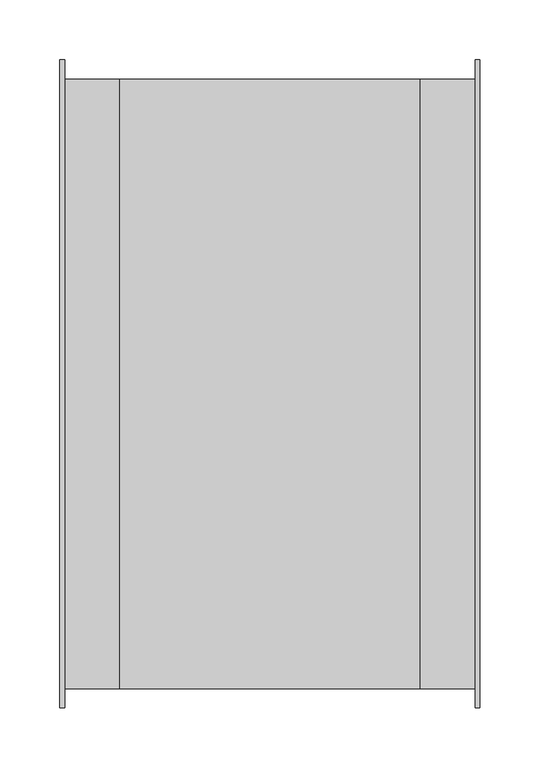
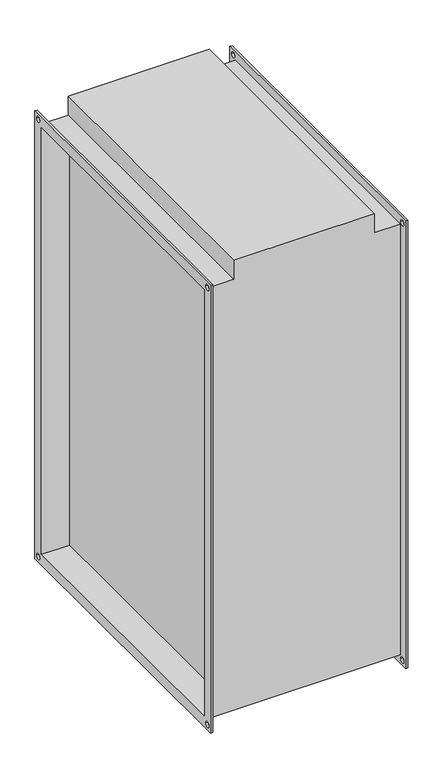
"""IFC4 building model written with IfcOpenShell, lengths in millimetres: proxy geometry."""

import ifcopenshell
import ifcopenshell.guid

model = None  # the IFC model being written
_history = None  # IfcOwnerHistory: only IFC2X3 demands one
_inside = {}  # id of a spatial element -> (the spatial element, [elements in it])
_under = {}  # id of a project, library or spatial element -> (it, [spatial elements below it])
_declared = {}  # id of a project -> (the project, [libraries it declares])
_typed = {}  # id of a type object -> (the type object, [elements of that type])
_made_of = {}  # id of a material, layer set ... -> (it, [elements and type objects made of it])


def new_model(schema):
    """Start an empty IFC model of exactly this schema.

    Asked for "IFC4X3", IfcOpenShell would pick the latest addendum, in which some entities
    have other attributes; the version numbers below select the first issue.
    IFC2X3 requires an IfcOwnerHistory on every rooted entity: one is made here for all.
    """
    global model, _history
    if schema == "IFC4X3":
        model = ifcopenshell.file(schema_version=(4, 3, 0, 0))
    else:
        model = ifcopenshell.file(schema=schema)
    _inside.clear()
    _under.clear()
    _declared.clear()
    _typed.clear()
    _made_of.clear()
    _history = None
    if model.schema == "IFC2X3":
        org = make("IfcOrganization", Name="unknown")
        user = make(
            "IfcPersonAndOrganization",
            ThePerson=make("IfcPerson", FamilyName="unknown"),
            TheOrganization=org,
        )
        app = make(
            "IfcApplication",
            ApplicationDeveloper=org,
            Version="unknown",
            ApplicationFullName="unknown",
            ApplicationIdentifier="unknown",
        )
        _history = make(
            "IfcOwnerHistory",
            OwningUser=user,
            OwningApplication=app,
            ChangeAction="ADDED",
            CreationDate=0,
        )
    return model


def make(cls, **values):
    """One entity of the class cls with the attributes given. An attribute that is None is left unset."""
    return model.create_entity(
        cls, **{name: value for name, value in values.items() if value is not None}
    )


def rooted(cls, **values):
    """An entity with a GlobalId (a new one), such as an element, a storey or a relation."""
    return make(cls, GlobalId=ifcopenshell.guid.new(), OwnerHistory=_history, **values)


def si_unit(unit_type, name, prefix=None):
    """IfcSIUnit, for example si_unit("LENGTHUNIT", "METRE", prefix="MILLI")."""
    return make("IfcSIUnit", UnitType=unit_type, Prefix=prefix, Name=name)


def assignment(units):
    """IfcUnitAssignment: the units of a project."""
    return None if units is None else make("IfcUnitAssignment", Units=units)


def point(xyz):
    """IfcCartesianPoint."""
    return None if xyz is None else make("IfcCartesianPoint", Coordinates=xyz)


def direction(xyz):
    """IfcDirection."""
    return None if xyz is None else make("IfcDirection", DirectionRatios=xyz)


def frame(location, z_axis=None, x_axis=None):
    """IfcAxis2Placement3D, a coordinate frame: its origin and axes. An axis left out is left unset."""
    return make(
        "IfcAxis2Placement3D",
        Location=point(location),
        Axis=direction(z_axis),
        RefDirection=direction(x_axis),
    )


def origin():
    """The frame at (0, 0, 0) with its axes left unset."""
    return frame((0.0, 0.0, 0.0))


def place(relative_to, where):
    """IfcLocalPlacement: puts the frame where relative to a parent placement (None: the world)."""
    return make(
        "IfcLocalPlacement", PlacementRelTo=relative_to, RelativePlacement=where
    )


def context(
    kind, dimensions, precision=None, world=None, true_north=None, identifier=None
):
    """IfcGeometricRepresentationContext, for example the 3D "Model" context."""
    return make(
        "IfcGeometricRepresentationContext",
        ContextIdentifier=identifier,
        ContextType=kind,
        CoordinateSpaceDimension=dimensions,
        Precision=precision,
        WorldCoordinateSystem=world,
        TrueNorth=true_north,
    )


def project(units=None, contexts=None):
    """IfcProject with its units and contexts."""
    return rooted(
        "IfcProject",
        Name="project",
        RepresentationContexts=contexts,
        UnitsInContext=assignment(units),
    )


def spatial(cls, under=None, at=None, **own):
    """A site, building, storey or space (cls), placed at a placement, below another one or the project."""
    s = rooted(cls, ObjectPlacement=at, **own)
    if under is not None:
        _under.setdefault(under.id(), (under, []))[1].append(s)
    return s


def polyline(points):
    """IfcPolyline through the points."""
    return make("IfcPolyline", Points=[point(p) for p in points])


def circle_curve(where, radius):
    """IfcCircle in the frame where."""
    return make("IfcCircle", Position=where, Radius=radius)


def shape(context_of_items, identifier, shape_type, items):
    """IfcShapeRepresentation: the items that make up one representation, for example the "Body"."""
    return make(
        "IfcShapeRepresentation",
        ContextOfItems=context_of_items,
        RepresentationIdentifier=identifier,
        RepresentationType=shape_type,
        Items=items,
    )


def source(mapping_origin, context_of_items, identifier, shape_type, items):
    """IfcRepresentationMap: a shape defined once, which mapped items show again and again."""
    return make(
        "IfcRepresentationMap",
        MappingOrigin=mapping_origin,
        MappedRepresentation=shape(context_of_items, identifier, shape_type, items),
    )


def transform(
    local_origin,
    x_axis=None,
    y_axis=None,
    z_axis=None,
    scale=None,
    scale2=None,
    scale3=None,
    uniform=True,
):
    """IfcCartesianTransformationOperator3D, or its non-uniform kind. x_axis, y_axis, z_axis: its Axis1, 2, 3."""
    if uniform:
        return make(
            "IfcCartesianTransformationOperator3D",
            Axis1=direction(x_axis),
            Axis2=direction(y_axis),
            LocalOrigin=point(local_origin),
            Scale=scale,
            Axis3=direction(z_axis),
        )
    return make(
        "IfcCartesianTransformationOperator3DnonUniform",
        Axis1=direction(x_axis),
        Axis2=direction(y_axis),
        LocalOrigin=point(local_origin),
        Scale=scale,
        Axis3=direction(z_axis),
        Scale2=scale2,
        Scale3=scale3,
    )


def mapped(mapping_source, mapping_target):
    """IfcMappedItem: shows the shape of a source again, moved by a transform."""
    return make(
        "IfcMappedItem", MappingSource=mapping_source, MappingTarget=mapping_target
    )


def made_of(thing, what):
    """Note that an element or type object is made of a material, layer set ...; save() writes the relation."""
    if what is not None:
        _made_of.setdefault(what.id(), (what, []))[1].append(thing)
    return thing


def element(
    cls,
    number,
    at=None,
    inside=None,
    cuts=None,
    type_object=None,
    material=None,
    context=None,
    identifier="Body",
    shape_type=None,
    held_by="IfcProductDefinitionShape",
    body=None,
    shapes=None,
    **own,
):
    """One element of the class cls, such as IfcWall. Its Tag is "e" and its number.

    at: its placement. inside: the storey or other place that contains it. cuts: it is an
    opening in that element (IfcRelVoidsElement). A single representation is given by context,
    identifier, shape_type and body (its items); several are given by shapes. held_by: the class
    of the entity that holds the representations. save() writes the other relations.
    """
    e = rooted(cls, Tag="e%d" % number, ObjectPlacement=at, **own)
    if body is not None:
        shapes = [shape(context, identifier, shape_type, body)]
    if shapes is not None:
        e.Representation = make(held_by, Representations=shapes)
    if inside is not None:
        _inside.setdefault(inside.id(), (inside, []))[1].append(e)
    if cuts is not None:
        rooted(
            "IfcRelVoidsElement", RelatingBuildingElement=cuts, RelatedOpeningElement=e
        )
    if type_object is not None:
        _typed.setdefault(type_object.id(), (type_object, []))[1].append(e)
    return made_of(e, material)


def aggregate(whole, parts):
    """IfcRelAggregates: a whole, such as a stair, and the parts it consists of."""
    return rooted("IfcRelAggregates", RelatingObject=whole, RelatedObjects=parts)


def save(model, path):
    """Write the relations noted so far, then the file.

    IfcRelAggregates (storeys below a building ...), IfcRelContainedInSpatialStructure (elements
    in a storey), IfcRelDefinesByType, IfcRelAssociatesMaterial and IfcRelDeclares: one each for
    every whole, place, type object, material and project.
    """
    for whole, parts in _under.values():
        aggregate(whole, parts)
    for where, things in _inside.values():
        rooted(
            "IfcRelContainedInSpatialStructure",
            RelatedElements=things,
            RelatingStructure=where,
        )
    for kind, things in _typed.values():
        rooted("IfcRelDefinesByType", RelatedObjects=things, RelatingType=kind)
    for what, things in _made_of.values():
        rooted("IfcRelAssociatesMaterial", RelatedObjects=things, RelatingMaterial=what)
    for by, libraries in _declared.values():
        rooted("IfcRelDeclares", RelatingContext=by, RelatedDefinitions=libraries)
    model.write(path)


def plane_surface(at):
    """IfcPlane: the flat surface through the origin of the frame at, square to its z axis."""
    return make("IfcPlane", Position=at)


def revolved_surface(curve, axis_point, axis_direction):
    """IfcSurfaceOfRevolution: the curve turned about the line through axis_point along axis_direction."""
    return make(
        "IfcSurfaceOfRevolution",
        SweptCurve=make("IfcArbitraryOpenProfileDef", ProfileType="CURVE", Curve=curve),
        AxisPosition=make("IfcAxis1Placement", Location=point(axis_point), Axis=direction(axis_direction)),
    )


def advanced_brep(points, edges, surfaces, faces):
    """IfcAdvancedBrep: a solid bounded by faces that lie on surfaces and meet in shared edges.

    An edge is (start, end): straight between two places in points (the first is 0);
    or (start, end, curve); or (start, end, curve, False) where it runs against its curve.
    A face is (place in surfaces, loops), or (place, loops, False) where it looks against
    its surface's normal. A loop lists edges by number (the first is 1), with a minus sign
    where the edge is run from its end to its start. The first loop is the outer one.
    """
    corners = [point(p) for p in points]
    vertices = [make("IfcVertexPoint", VertexGeometry=c) for c in corners]
    made = []
    for start, end, *more in edges:
        made.append(
            make(
                "IfcEdgeCurve",
                EdgeStart=vertices[start],
                EdgeEnd=vertices[end],
                EdgeGeometry=more[0] if more else make("IfcPolyline", Points=[corners[start], corners[end]]),
                SameSense=more[1] if len(more) > 1 else True,
            )
        )
    hull = []
    for where, loops, *sense in faces:
        bounds = []
        for j, loop in enumerate(loops):
            ring = [make("IfcOrientedEdge", EdgeElement=made[abs(k) - 1], Orientation=k > 0) for k in loop]
            bounds.append(
                make(
                    "IfcFaceOuterBound" if j == 0 else "IfcFaceBound",
                    Bound=make("IfcEdgeLoop", EdgeList=ring),
                    Orientation=True,
                )
            )
        hull.append(make("IfcAdvancedFace", Bounds=bounds, FaceSurface=surfaces[where], SameSense=sense[0] if sense else True))
    return make("IfcAdvancedBrep", Outer=make("IfcClosedShell", CfsFaces=hull))


def mechanical_equipment_5670d90b(model_context):
    return source(origin(), model_context, "Body", "AdvancedBrep", [
        advanced_brep(
        [(-125.0, -254.0, 404.0), (-171.0, -254.0, 404.0), (-171.0, -254.0, -404.0), (171.0, -254.0, -404.0), (171.0, -254.0, 404.0), (125.0, -254.0, 404.0), (125.0, -254.0, 440.0), (-125.0, -254.0, 440.0), (-171.0, 254.0, -404.0), (171.0, 254.0, -404.0), (-171.0, 254.0, 404.0), (-125.0, 254.0, 404.0), (-125.0, 254.0, 440.0), (125.0, 254.0, 440.0), (125.0, 254.0, 404.0), (171.0, 254.0, 404.0), (125.0, 250.0, -400.0), (125.0, 250.0, 400.0), (125.0, -250.0, 400.0), (125.0, -250.0, -400.0), (-125.0, -250.0, 400.0), (-125.0, 250.0, 400.0), (-125.0, 250.0, -400.0), (-125.0, -250.0, -400.0), (-175.0, -270.0, 420.0), (-175.0, 270.0, 420.0), (-175.0, 270.0, -420.0), (-175.0, -270.0, -420.0), (-175.0, -250.0, 400.0), (-175.0, -250.0, -400.0), (-175.0, 250.0, -400.0), (-175.0, 250.0, 400.0), (-175.0, 255.0, 410.0), (-175.0, 265.0, 410.0), (-175.0, -265.0, 410.0), (-175.0, -255.0, 410.0), (-175.0, -265.0, -410.0), (-175.0, -255.0, -410.0), (-175.0, 255.0, -410.0), (-175.0, 265.0, -410.0), (-171.0, -270.0, 420.0), (-171.0, -270.0, -420.0), (-171.0, 270.0, -420.0), (-171.0, 270.0, 420.0), (-171.0, 265.0, 410.0), (-171.0, 255.0, 410.0), (-171.0, -255.0, 410.0), (-171.0, -265.0, 410.0), (-171.0, -255.0, -410.0), (-171.0, -265.0, -410.0), (-171.0, 265.0, -410.0), (-171.0, 255.0, -410.0), (171.0, 270.0, 420.0), (171.0, 270.0, -420.0), (171.0, -270.0, -420.0), (171.0, -270.0, 420.0), (171.0, 255.0, 410.0), (171.0, 265.0, 410.0), (171.0, -265.0, 410.0), (171.0, -255.0, 410.0), (171.0, -265.0, -410.0), (171.0, -255.0, -410.0), (171.0, 255.0, -410.0), (171.0, 265.0, -410.0), (175.0, 270.0, 420.0), (175.0, -270.0, 420.0), (175.0, -270.0, -420.0), (175.0, 270.0, -420.0), (175.0, 250.0, 400.0), (175.0, 250.0, -400.0), (175.0, -250.0, -400.0), (175.0, -250.0, 400.0), (175.0, 265.0, 410.0), (175.0, 255.0, 410.0), (175.0, -255.0, 410.0), (175.0, -265.0, 410.0), (175.0, -255.0, -410.0), (175.0, -265.0, -410.0), (175.0, 265.0, -410.0), (175.0, 255.0, -410.0)],
        [
            (0, 1),
            (1, 2),
            (2, 3),
            (3, 4),
            (4, 5),
            (5, 6),
            (6, 7),
            (7, 0),
            (2, 8),
            (8, 9),
            (9, 3),
            (10, 11),
            (11, 12),
            (12, 13),
            (13, 14),
            (14, 15),
            (15, 9),
            (8, 10),
            (0, 11),
            (10, 1),
            (13, 6),
            (5, 14),
            (16, 17),
            (17, 18),
            (18, 19),
            (19, 16),
            (7, 12),
            (20, 21),
            (21, 22),
            (22, 23),
            (23, 20),
            (4, 15),
            (24, 25),
            (25, 26),
            (26, 27),
            (27, 24),
            (28, 29),
            (29, 30),
            (30, 31),
            (31, 28),
            (32, 33, circle_curve(frame((-175.0, 260.0, 410.0), z_axis=(1.0, 0.0, 0.0), x_axis=(0.0, 1.0, 0.0)), 5.0)),
            (33, 32, circle_curve(frame((-175.0, 260.0, 410.0), z_axis=(1.0, 0.0, 0.0), x_axis=(0.0, 1.0, 0.0)), 5.0)),
            (34, 35, circle_curve(frame((-175.0, -260.0, 410.0), z_axis=(1.0, 0.0, 0.0), x_axis=(0.0, 1.0, 0.0)), 5.0)),
            (35, 34, circle_curve(frame((-175.0, -260.0, 410.0), z_axis=(1.0, 0.0, 0.0), x_axis=(0.0, 1.0, 0.0)), 5.0)),
            (36, 37, circle_curve(frame((-175.0, -260.0, -410.0), z_axis=(1.0, 0.0, 0.0), x_axis=(0.0, 1.0, 0.0)), 5.0)),
            (37, 36, circle_curve(frame((-175.0, -260.0, -410.0), z_axis=(1.0, 0.0, 0.0), x_axis=(0.0, 1.0, 0.0)), 5.0)),
            (38, 39, circle_curve(frame((-175.0, 260.0, -410.0), z_axis=(1.0, 0.0, 0.0), x_axis=(0.0, 1.0, 0.0)), 5.0)),
            (39, 38, circle_curve(frame((-175.0, 260.0, -410.0), z_axis=(1.0, 0.0, 0.0), x_axis=(0.0, 1.0, 0.0)), 5.0)),
            (40, 41),
            (41, 42),
            (42, 43),
            (43, 40),
            (44, 45, circle_curve(frame((-171.0, 260.0, 410.0), z_axis=(-1.0, 0.0, 0.0), x_axis=(0.0, 1.0, 0.0)), 5.0)),
            (45, 44, circle_curve(frame((-171.0, 260.0, 410.0), z_axis=(-1.0, 0.0, 0.0), x_axis=(0.0, 1.0, 0.0)), 5.0)),
            (46, 47, circle_curve(frame((-171.0, -260.0, 410.0), z_axis=(-1.0, 0.0, 0.0), x_axis=(0.0, 1.0, 0.0)), 5.0)),
            (47, 46, circle_curve(frame((-171.0, -260.0, 410.0), z_axis=(-1.0, 0.0, 0.0), x_axis=(0.0, 1.0, 0.0)), 5.0)),
            (48, 49, circle_curve(frame((-171.0, -260.0, -410.0), z_axis=(-1.0, 0.0, 0.0), x_axis=(0.0, 1.0, 0.0)), 5.0)),
            (49, 48, circle_curve(frame((-171.0, -260.0, -410.0), z_axis=(-1.0, 0.0, 0.0), x_axis=(0.0, 1.0, 0.0)), 5.0)),
            (50, 51, circle_curve(frame((-171.0, 260.0, -410.0), z_axis=(-1.0, 0.0, 0.0), x_axis=(0.0, 1.0, 0.0)), 5.0)),
            (51, 50, circle_curve(frame((-171.0, 260.0, -410.0), z_axis=(-1.0, 0.0, 0.0), x_axis=(0.0, 1.0, 0.0)), 5.0)),
            (27, 41),
            (40, 24),
            (26, 42),
            (25, 43),
            (52, 53),
            (53, 54),
            (54, 55),
            (55, 52),
            (56, 57, circle_curve(frame((171.0, 260.0, 410.0), z_axis=(1.0, 0.0, 0.0), x_axis=(0.0, 1.0, 0.0)), 5.0)),
            (57, 56, circle_curve(frame((171.0, 260.0, 410.0), z_axis=(1.0, 0.0, 0.0), x_axis=(0.0, 1.0, 0.0)), 5.0)),
            (58, 59, circle_curve(frame((171.0, -260.0, 410.0), z_axis=(1.0, 0.0, 0.0), x_axis=(0.0, 1.0, 0.0)), 5.0)),
            (59, 58, circle_curve(frame((171.0, -260.0, 410.0), z_axis=(1.0, 0.0, 0.0), x_axis=(0.0, 1.0, 0.0)), 5.0)),
            (60, 61, circle_curve(frame((171.0, -260.0, -410.0), z_axis=(1.0, 0.0, 0.0), x_axis=(0.0, 1.0, 0.0)), 5.0)),
            (61, 60, circle_curve(frame((171.0, -260.0, -410.0), z_axis=(1.0, 0.0, 0.0), x_axis=(0.0, 1.0, 0.0)), 5.0)),
            (62, 63, circle_curve(frame((171.0, 260.0, -410.0), z_axis=(1.0, 0.0, 0.0), x_axis=(0.0, 1.0, 0.0)), 5.0)),
            (63, 62, circle_curve(frame((171.0, 260.0, -410.0), z_axis=(1.0, 0.0, 0.0), x_axis=(0.0, 1.0, 0.0)), 5.0)),
            (64, 65),
            (65, 66),
            (66, 67),
            (67, 64),
            (68, 69),
            (69, 70),
            (70, 71),
            (71, 68),
            (72, 73, circle_curve(frame((175.0, 260.0, 410.0), z_axis=(-1.0, 0.0, 0.0), x_axis=(0.0, 1.0, 0.0)), 5.0)),
            (73, 72, circle_curve(frame((175.0, 260.0, 410.0), z_axis=(-1.0, 0.0, 0.0), x_axis=(0.0, 1.0, 0.0)), 5.0)),
            (74, 75, circle_curve(frame((175.0, -260.0, 410.0), z_axis=(-1.0, 0.0, 0.0), x_axis=(0.0, 1.0, 0.0)), 5.0)),
            (75, 74, circle_curve(frame((175.0, -260.0, 410.0), z_axis=(-1.0, 0.0, 0.0), x_axis=(0.0, 1.0, 0.0)), 5.0)),
            (76, 77, circle_curve(frame((175.0, -260.0, -410.0), z_axis=(-1.0, 0.0, 0.0), x_axis=(0.0, 1.0, 0.0)), 5.0)),
            (77, 76, circle_curve(frame((175.0, -260.0, -410.0), z_axis=(-1.0, 0.0, 0.0), x_axis=(0.0, 1.0, 0.0)), 5.0)),
            (78, 79, circle_curve(frame((175.0, 260.0, -410.0), z_axis=(-1.0, 0.0, 0.0), x_axis=(0.0, 1.0, 0.0)), 5.0)),
            (79, 78, circle_curve(frame((175.0, 260.0, -410.0), z_axis=(-1.0, 0.0, 0.0), x_axis=(0.0, 1.0, 0.0)), 5.0)),
            (55, 65),
            (64, 52),
            (54, 66),
            (53, 67),
            (31, 21),
            (20, 28),
            (30, 22),
            (29, 23),
            (68, 17),
            (16, 69),
            (19, 70),
            (18, 71),
            (32, 45),
            (44, 33),
            (56, 73),
            (72, 57),
            (34, 47),
            (46, 35),
            (58, 75),
            (74, 59),
            (36, 49),
            (48, 37),
            (60, 77),
            (76, 61),
            (38, 51),
            (50, 39),
            (62, 79),
            (78, 63),
        ],
        [
            plane_surface(frame((-125.0, -254.0, 404.0), z_axis=(0.0, -1.0, 0.0), x_axis=(-1.0, 0.0, 0.0))),
            plane_surface(frame((-125.0, -254.0, -404.0), z_axis=(0.0, 0.0, -1.0), x_axis=(-1.0, 0.0, 0.0))),
            plane_surface(frame((-125.0, 254.0, -404.0), z_axis=(0.0, 1.0, 0.0), x_axis=(-1.0, 0.0, 0.0))),
            plane_surface(frame((-125.0, 254.0, 404.0), z_axis=(0.0, 0.0, 1.0), x_axis=(-1.0, 0.0, 0.0))),
            plane_surface(frame((125.0, -254.0, 440.0), z_axis=(1.0, 0.0, 0.0), x_axis=(0.0, 0.0, -1.0))),
            plane_surface(frame((-125.0, -254.0, 440.0), z_axis=(-1.0, 0.0, 0.0), x_axis=(0.0, 0.0, 1.0))),
            plane_surface(frame((125.0, 254.0, 440.0), z_axis=(0.0, 0.0, 1.0), x_axis=(-1.0, 0.0, 0.0))),
            plane_surface(frame((171.0, 254.0, 404.0), z_axis=(0.0, 0.0, 1.0), x_axis=(-1.0, 0.0, 0.0))),
            plane_surface(frame((-175.0, -270.0, 420.0), z_axis=(-1.0, 0.0, 0.0), x_axis=(0.0, 0.0, 1.0))),
            plane_surface(frame((-171.0, -270.0, 420.0), z_axis=(1.0, 0.0, 0.0), x_axis=(0.0, 0.0, -1.0))),
            plane_surface(frame((-171.0, -270.0, 420.0), z_axis=(0.0, -1.0, 0.0), x_axis=(-1.0, 0.0, 0.0))),
            plane_surface(frame((-171.0, -270.0, -420.0), z_axis=(0.0, 0.0, -1.0), x_axis=(-1.0, 0.0, 0.0))),
            plane_surface(frame((-171.0, 270.0, -420.0), z_axis=(0.0, 1.0, 0.0), x_axis=(-1.0, 0.0, 0.0))),
            plane_surface(frame((-171.0, 270.0, 420.0), z_axis=(0.0, 0.0, 1.0), x_axis=(-1.0, 0.0, 0.0))),
            plane_surface(frame((171.0, 250.0, -400.0), z_axis=(-1.0, 0.0, 0.0), x_axis=(0.0, 0.0, 1.0))),
            plane_surface(frame((175.0, 250.0, -400.0), z_axis=(1.0, 0.0, 0.0), x_axis=(0.0, 0.0, -1.0))),
            plane_surface(frame((175.0, 270.0, 420.0), z_axis=(0.0, 0.0, 1.0), x_axis=(-1.0, 0.0, 0.0))),
            plane_surface(frame((175.0, -270.0, 420.0), z_axis=(0.0, -1.0, 0.0), x_axis=(-1.0, 0.0, 0.0))),
            plane_surface(frame((175.0, -270.0, -420.0), z_axis=(0.0, 0.0, -1.0), x_axis=(-1.0, 0.0, 0.0))),
            plane_surface(frame((175.0, 270.0, -420.0), z_axis=(0.0, 1.0, 0.0), x_axis=(-1.0, 0.0, 0.0))),
            plane_surface(frame((-171.0, -250.0, 400.0), z_axis=(0.0, 0.0, -1.0), x_axis=(-1.0, 0.0, 0.0))),
            plane_surface(frame((-171.0, 250.0, 400.0), z_axis=(0.0, -1.0, 0.0), x_axis=(-1.0, 0.0, 0.0))),
            plane_surface(frame((-171.0, 250.0, -400.0), z_axis=(0.0, 0.0, 1.0), x_axis=(-1.0, 0.0, 0.0))),
            plane_surface(frame((-171.0, -250.0, -400.0), z_axis=(0.0, 1.0, 0.0), x_axis=(-1.0, 0.0, 0.0))),
            plane_surface(frame((175.0, 250.0, 400.0), z_axis=(0.0, -1.0, 0.0), x_axis=(-1.0, 0.0, 0.0))),
            plane_surface(frame((175.0, 250.0, -400.0), z_axis=(0.0, 0.0, 1.0), x_axis=(-1.0, 0.0, 0.0))),
            plane_surface(frame((175.0, -250.0, -400.0), z_axis=(0.0, 1.0, 0.0), x_axis=(-1.0, 0.0, 0.0))),
            plane_surface(frame((175.0, -250.0, 400.0), z_axis=(0.0, 0.0, -1.0), x_axis=(-1.0, 0.0, 0.0))),
            revolved_surface(polyline([(-171.0, 265.0, 410.0), (-175.0, 265.0, 410.0)]), (-175.0, 260.0, 410.0), (1.0, 0.0, 0.0)),
            revolved_surface(polyline([(175.0, 265.0, 410.0), (171.0, 265.0, 410.0)]), (-175.0, 260.0, 410.0), (1.0, 0.0, 0.0)),
            revolved_surface(polyline([(-171.0, -255.0, 410.0), (-175.0, -255.0, 410.0)]), (0.0, -260.0, 410.0), (1.0, 0.0, 0.0)),
            revolved_surface(polyline([(175.0, -255.0, 410.0), (171.0, -255.0, 410.0)]), (0.0, -260.0, 410.0), (1.0, 0.0, 0.0)),
            revolved_surface(polyline([(-171.0, -255.0, -410.0), (-175.0, -255.0, -410.0)]), (0.0, -260.0, -410.0), (1.0, 0.0, 0.0)),
            revolved_surface(polyline([(175.0, -255.0, -410.0), (171.0, -255.0, -410.0)]), (0.0, -260.0, -410.0), (1.0, 0.0, 0.0)),
            revolved_surface(polyline([(-171.0, 265.0, -410.0), (-175.0, 265.0, -410.0)]), (0.0, 260.0, -410.0), (1.0, 0.0, 0.0)),
            revolved_surface(polyline([(175.0, 265.0, -410.0), (171.0, 265.0, -410.0)]), (0.0, 260.0, -410.0), (1.0, 0.0, 0.0)),
        ],
        [
            (0, [[1, 2, 3, 4, 5, 6, 7, 8]]),
            (1, [[-3, 9, 10, 11]]),
            (2, [[12, 13, 14, 15, 16, 17, -10, 18]]),
            (3, [[-1, 19, -12, 20]]),
            (4, [[21, -6, 22, -15]]),
            (4, [[23, 24, 25, 26]]),
            (5, [[27, -13, -19, -8]]),
            (5, [[28, 29, 30, 31]]),
            (6, [[-21, -14, -27, -7]]),
            (7, [[-5, 32, -16, -22]]),
            (8, [[33, 34, 35, 36], [37, 38, 39, 40], [41, 42], [43, 44], [45, 46], [47, 48]]),
            (9, [[49, 50, 51, 52], [-2, -20, -18, -9], [53, 54], [55, 56], [57, 58], [59, 60]]),
            (10, [[-36, 61, -49, 62]]),
            (11, [[-35, 63, -50, -61]]),
            (12, [[-34, 64, -51, -63]]),
            (13, [[-33, -62, -52, -64]]),
            (14, [[65, 66, 67, 68], [-4, -11, -17, -32], [69, 70], [71, 72], [73, 74], [75, 76]]),
            (15, [[77, 78, 79, 80], [81, 82, 83, 84], [85, 86], [87, 88], [89, 90], [91, 92]]),
            (16, [[-68, 93, -77, 94]]),
            (17, [[-67, 95, -78, -93]]),
            (18, [[-66, 96, -79, -95]]),
            (19, [[-65, -94, -80, -96]]),
            (20, [[-40, 97, -28, 98]]),
            (21, [[-39, 99, -29, -97]]),
            (22, [[-38, 100, -30, -99]]),
            (23, [[-37, -98, -31, -100]]),
            (24, [[-81, 101, -23, 102]]),
            (25, [[-82, -102, -26, 103]]),
            (26, [[-83, -103, -25, 104]]),
            (27, [[-101, -84, -104, -24]]),
            (28, [[105, -53, 106, -41]]),
            (29, [[107, -85, 108, -69]]),
            (28, [[-105, -42, -106, -54]]),
            (29, [[-107, -70, -108, -86]]),
            (30, [[109, -55, 110, -43]]),
            (31, [[111, -87, 112, -71]]),
            (30, [[-109, -44, -110, -56]]),
            (31, [[-111, -72, -112, -88]]),
            (32, [[113, -57, 114, -45]]),
            (33, [[115, -89, 116, -73]]),
            (32, [[-113, -46, -114, -58]]),
            (33, [[-115, -74, -116, -90]]),
            (34, [[117, -59, 118, -47]]),
            (35, [[119, -91, 120, -75]]),
            (34, [[-117, -48, -118, -60]]),
            (35, [[-119, -76, -120, -92]]),
        ],
    ),
    ])


if __name__ == "__main__":
    model = new_model("IFC4")
    model_context = context("Model", 3, world=origin())
    ifc_project = project(units=[si_unit("LENGTHUNIT", "METRE", prefix="MILLI")], contexts=[model_context])
    site = spatial("IfcSite", under=ifc_project)
    building = spatial("IfcBuilding", under=site)
    placement = place(None, origin())
    mechanical_equipment_shape = mechanical_equipment_5670d90b(model_context)
    element("IfcBuildingElementProxy", 1, Name="Mechanical Equipment", at=placement, inside=building, context=model_context, shape_type="MappedRepresentation", body=[
        mapped(mechanical_equipment_shape, transform((0.0, 0.0, 0.0), x_axis=(1.0, 0.0, 0.0), y_axis=(0.0, 1.0, 0.0), z_axis=(0.0, 0.0, 1.0))),
    ])
    save(model, "model.ifc")
